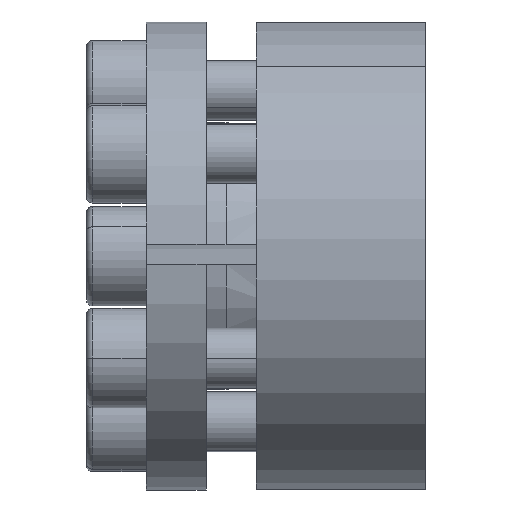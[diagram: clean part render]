
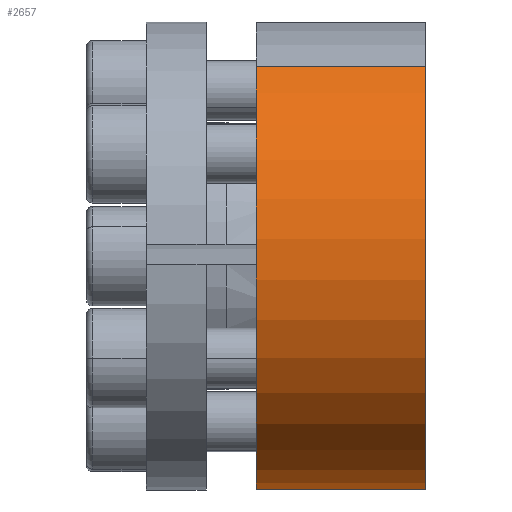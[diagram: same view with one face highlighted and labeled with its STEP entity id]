
A CAD part, top view. The second image highlights one B-rep face of the part: STEP entity #2657.
In plain terms, the highlighted cylindrical face has radius 23.5 mm (diameter 47 mm), a partial arc.
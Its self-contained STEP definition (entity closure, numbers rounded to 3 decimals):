
#12 = DIRECTION ( 'NONE',  ( -1., 0., 0. ) ) ;
#98 = ORIENTED_EDGE ( 'NONE', *, *, #3890, .T. ) ;
#114 = EDGE_CURVE ( 'NONE', #2613, #3502, #2828, .T. ) ;
#162 = ORIENTED_EDGE ( 'NONE', *, *, #114, .T. ) ;
#249 = DIRECTION ( 'NONE',  ( 0., -0.809, -0.588 ) ) ;
#271 = DIRECTION ( 'NONE',  ( -1., 0., 0. ) ) ;
#281 = AXIS2_PLACEMENT_3D ( 'NONE', #2099, #3841, #2457 ) ;
#291 = CARTESIAN_POINT ( 'NONE',  ( -14.383, -0.602, 0.007 ) ) ;
#681 = LINE ( 'NONE', #3315, #1501 ) ;
#764 = ORIENTED_EDGE ( 'NONE', *, *, #1270, .F. ) ;
#1002 = CARTESIAN_POINT ( 'NONE',  ( 2.617, -19.614, -13.806 ) ) ;
#1270 = EDGE_CURVE ( 'NONE', #2613, #1298, #681, .T. ) ;
#1298 = VERTEX_POINT ( 'NONE', #4308 ) ;
#1501 = VECTOR ( 'NONE', #2575, 1000. ) ;
#1524 = CYLINDRICAL_SURFACE ( 'NONE', #281, 23.5 ) ;
#1697 = AXIS2_PLACEMENT_3D ( 'NONE', #3058, #3449, #3415 ) ;
#1775 = EDGE_CURVE ( 'NONE', #1298, #3880, #3053, .T. ) ;
#1790 = CARTESIAN_POINT ( 'NONE',  ( -14.383, 18.41, 13.82 ) ) ;
#2099 = CARTESIAN_POINT ( 'NONE',  ( -14.383, -0.602, 0.007 ) ) ;
#2216 = LINE ( 'NONE', #2858, #4054 ) ;
#2457 = DIRECTION ( 'NONE',  ( 0., -0.809, -0.588 ) ) ;
#2575 = DIRECTION ( 'NONE',  ( -1., 0., 0. ) ) ;
#2613 = VERTEX_POINT ( 'NONE', #1002 ) ;
#2657 = ADVANCED_FACE ( 'NONE', ( #4533 ), #1524, .T. ) ;
#2788 = EDGE_LOOP ( 'NONE', ( #162, #98, #3889, #764 ) ) ;
#2828 = CIRCLE ( 'NONE', #1697, 23.5 ) ;
#2858 = CARTESIAN_POINT ( 'NONE',  ( -14.383, 18.41, 13.82 ) ) ;
#2998 = CARTESIAN_POINT ( 'NONE',  ( 2.617, 18.41, 13.82 ) ) ;
#3053 = CIRCLE ( 'NONE', #3636, 23.5 ) ;
#3058 = CARTESIAN_POINT ( 'NONE',  ( 2.617, -0.602, 0.007 ) ) ;
#3315 = CARTESIAN_POINT ( 'NONE',  ( -14.383, -19.614, -13.806 ) ) ;
#3415 = DIRECTION ( 'NONE',  ( 0., -0.809, -0.588 ) ) ;
#3449 = DIRECTION ( 'NONE',  ( -1., 0., 0. ) ) ;
#3502 = VERTEX_POINT ( 'NONE', #2998 ) ;
#3636 = AXIS2_PLACEMENT_3D ( 'NONE', #291, #271, #249 ) ;
#3841 = DIRECTION ( 'NONE',  ( -1., 0., 0. ) ) ;
#3880 = VERTEX_POINT ( 'NONE', #1790 ) ;
#3889 = ORIENTED_EDGE ( 'NONE', *, *, #1775, .F. ) ;
#3890 = EDGE_CURVE ( 'NONE', #3502, #3880, #2216, .T. ) ;
#4054 = VECTOR ( 'NONE', #12, 1000. ) ;
#4308 = CARTESIAN_POINT ( 'NONE',  ( -14.383, -19.614, -13.806 ) ) ;
#4533 = FACE_OUTER_BOUND ( 'NONE', #2788, .T. ) ;
